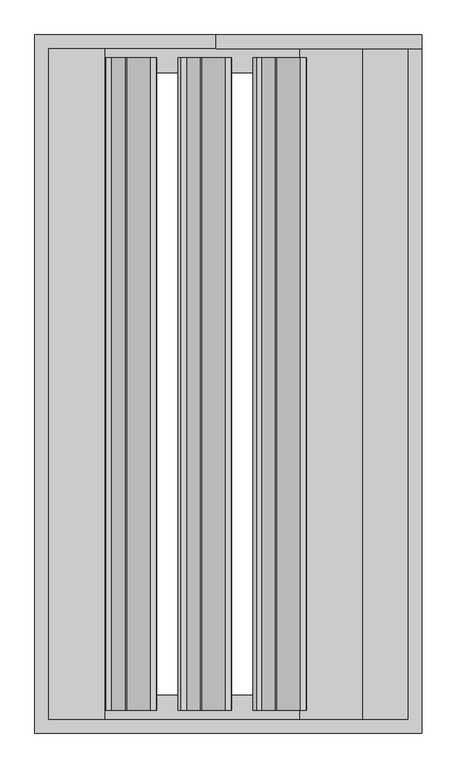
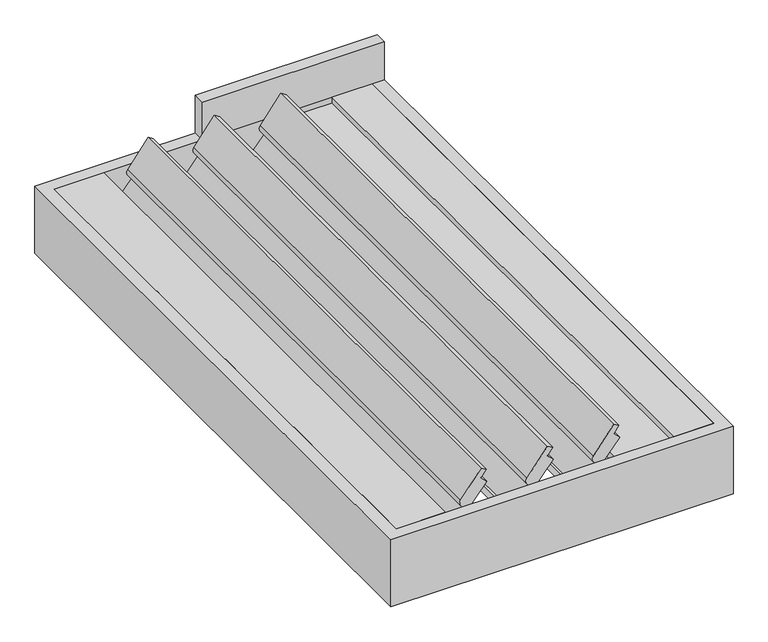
"""IFC4 building model written with IfcOpenShell, lengths in millimetres: proxy geometry, Renson_Aero_Patio covers : Aero - Single."""

from ifc_helpers import new_model, si_unit, point, frame, frame_2d, origin, origin_with_axes, place, context, project, spatial, polyline, circle_curve, trimmed, segment, composite_curve, outline, extrude, faceted_brep, source, transform, mapped, element, save


def generic_models_0f79cfca(model_context):
    return source(origin(), model_context, "Body", "SolidModel", [
        extrude(outline(composite_curve([segment(polyline([(38.6941425, 9.2171246), (58.328832, -10.4175649), (81.3082125, 7.056362), (91.2056128, -10.0864383), (3.54674, -76.7437941)]), True, "CONTINUOUS"), segment(trimmed(circle_curve(frame_2d((-5.5326698, -64.803764)), 15.0), [point((3.54674, -76.7437941))], [point((-15.174484, -76.2944307))], False, "CARTESIAN"), True, "CONTINUOUS"), segment(polyline([(-15.174484, -76.2944307), (-30.1324311, -63.7432228), (-97.3419348, -120.1386925), (-88.6707887, -135.157558), (-100.8453082, -144.4152777), (-120.7163908, -124.5441951), (38.6941425, 9.2171246)]), True, "CONTINUOUS")], self_intersect=False)), frame((0.0, -935.0, 0.0), z_axis=(0.0, 1.0, 0.0), x_axis=(0.0, 0.0, 1.0)), (0.0, 0.0, 1.0), 1870.0),
        extrude(outline(composite_curve([segment(polyline([(38.6941425, 224.3035629), (58.328832, 204.6688733), (81.3082125, 222.1428003), (91.2056128, 205.0), (3.54674, 138.3426442)]), True, "CONTINUOUS"), segment(trimmed(circle_curve(frame_2d((-5.5326698, 150.2826742)), 15.0), [point((3.54674, 138.3426442))], [point((-15.174484, 138.7920076))], False, "CARTESIAN"), True, "CONTINUOUS"), segment(polyline([(-15.174484, 138.7920076), (-30.1324311, 151.3432155), (-97.3419348, 94.9477457), (-88.6707887, 79.9288802), (-100.8453082, 70.6711605), (-120.7163908, 90.5422432), (38.6941425, 224.3035629)]), True, "CONTINUOUS")], self_intersect=False)), frame((0.0, -935.0, 0.0), z_axis=(0.0, 1.0, 0.0), x_axis=(0.0, 0.0, 1.0)), (0.0, 0.0, 1.0), 1870.0),
        extrude(outline(composite_curve([segment(polyline([(38.6941425, -205.8693136), (58.328832, -225.5040032), (81.3082125, -208.0300762), (91.2056128, -225.1728765), (3.54674, -291.8302323)]), True, "CONTINUOUS"), segment(trimmed(circle_curve(frame_2d((-5.5326698, -279.8902023)), 15.0), [point((3.54674, -291.8302323))], [point((-15.174484, -291.3808689))], False, "CARTESIAN"), True, "CONTINUOUS"), segment(polyline([(-15.174484, -291.3808689), (-30.1324311, -278.829661), (-97.3419348, -335.2251308), (-88.6707887, -350.2439963), (-100.8453082, -359.501716), (-120.7163908, -339.6306333), (38.6941425, -205.8693136)]), True, "CONTINUOUS")], self_intersect=False)), frame((0.0, -935.0, 0.0), z_axis=(0.0, 1.0, 0.0), x_axis=(0.0, 0.0, 1.0)), (0.0, 0.0, 1.0), 1870.0),
        extrude(outline(polyline([(-63.35, 515.0), (0.0, 515.0), (0.0, 385.5), (-20.0, 385.5), (-20.0, 205.0), (-44.0, 205.0), (-44.0, 355.0), (-63.35, 355.0), (-63.35, 515.0)])), frame((0.0, -960.0, 0.0), z_axis=(0.0, 1.0, 0.0), x_axis=(0.0, 0.0, 1.0)), (0.0, 0.0, 1.0), 1920.0),
        extrude(outline(polyline([(0.0, -355.0), (0.0, -515.0), (-44.0, -515.0), (-44.0, -382.3193336), (-10.8283397, -379.4171894), (-9.655498, -355.0), (0.0, -355.0)])), frame((0.0, -960.0, 0.0), z_axis=(0.0, 1.0, 0.0), x_axis=(0.0, 0.0, 1.0)), (0.0, 0.0, 1.0), 1920.0),
        extrude(outline(polyline([(555.0, 1000.0), (555.0, 960.0), (-35.0, 960.0), (-35.0, 1000.0), (555.0, 1000.0)])), origin_with_axes(), (0.0, 0.0, 1.0), 130.0),
        faceted_brep([(-515.0, 960.0, 0.0), (-515.0, 960.0, -173.0), (515.0, 960.0, -173.0), (515.0, 960.0, 0.0), (-555.0, 1000.0, -230.0), (-555.0, 1000.0, 0.0), (555.0, 1000.0, 0.0), (555.0, 1000.0, -230.0), (-445.0, 890.0, -173.0), (-445.0, 890.0, -230.0), (445.0, 890.0, -230.0), (445.0, 890.0, -173.0), (515.0, -960.0, -173.0), (515.0, -960.0, 0.0), (555.0, -1000.0, 0.0), (555.0, -1000.0, -230.0), (445.0, -890.0, -230.0), (445.0, -890.0, -173.0), (-515.0, -960.0, -173.0), (-515.0, -960.0, 0.0), (-555.0, -1000.0, 0.0), (-555.0, -1000.0, -230.0), (-445.0, -890.0, -230.0), (-445.0, -890.0, -173.0)], [[[0, 1, 2, 3]], [[4, 5, 6, 7]], [[8, 9, 10, 11]], [[3, 2, 12, 13]], [[7, 6, 14, 15]], [[11, 10, 16, 17]], [[13, 12, 18, 19]], [[15, 14, 20, 21]], [[17, 16, 22, 23]], [[19, 18, 1, 0]], [[5, 20, 14, 6], [3, 13, 19, 0]], [[21, 20, 5, 4]], [[7, 15, 21, 4], [9, 22, 16, 10]], [[23, 22, 9, 8]], [[1, 18, 12, 2], [11, 17, 23, 8]]]),
    ])


if __name__ == "__main__":
    model = new_model("IFC4")
    model_context = context("Model", 3, world=origin())
    ifc_project = project(units=[si_unit("LENGTHUNIT", "METRE", prefix="MILLI")], contexts=[model_context])
    site = spatial("IfcSite", under=ifc_project)
    building = spatial("IfcBuilding", under=site)
    placement = place(None, origin())
    generic_models_shape = generic_models_0f79cfca(model_context)
    element("IfcBuildingElementProxy", 1, Name="Renson_Aero_Patio covers : Aero - Single", ObjectType="Renson_Aero_Patio covers : Aero - Single", at=placement, inside=building, context=model_context, shape_type="MappedRepresentation", body=[
        mapped(generic_models_shape, transform((0.0, 0.0, 0.0), x_axis=(1.0, 0.0, 0.0), y_axis=(0.0, 1.0, 0.0), z_axis=(0.0, 0.0, 1.0))),
    ])
    save(model, "model.ifc")
